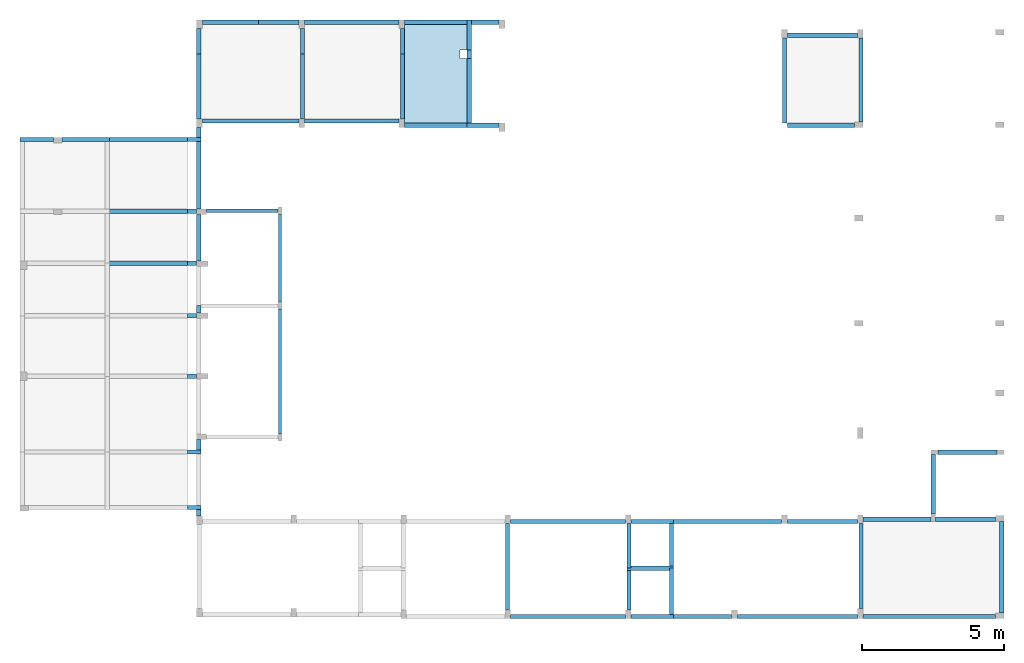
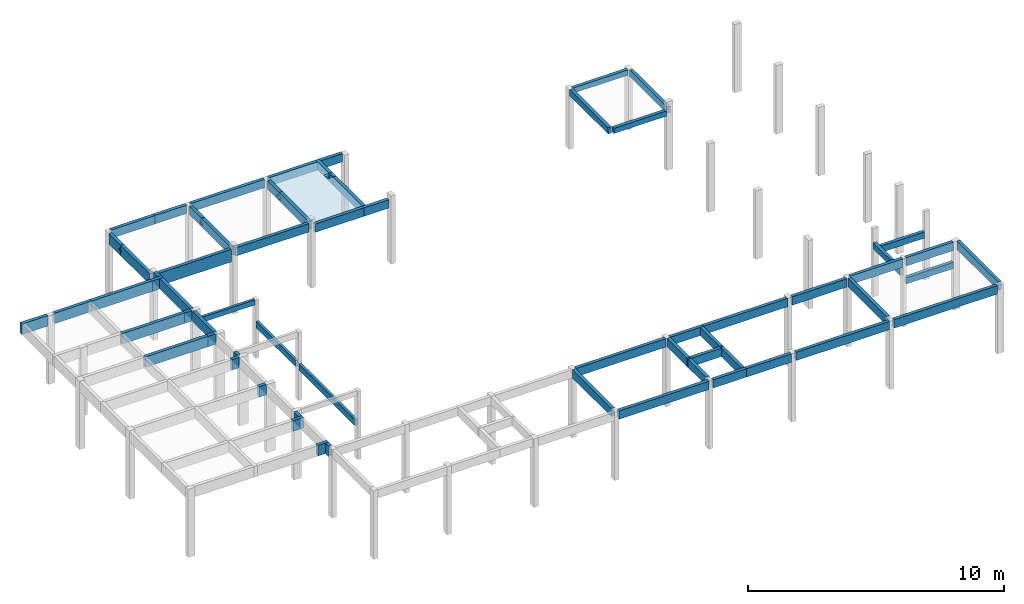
# One storey, part 2 of 6: 65 beams, 1 slab, 6 openings.
"""IFC4 building model written with IfcOpenShell, lengths in centimetres."""

import ifcopenshell
import ifcopenshell.guid

model = None  # the IFC model being written
_history = None  # IfcOwnerHistory: only IFC2X3 demands one
_inside = {}  # id of a spatial element -> (the spatial element, [elements in it])
_under = {}  # id of a project, library or spatial element -> (it, [spatial elements below it])
_declared = {}  # id of a project -> (the project, [libraries it declares])
_typed = {}  # id of a type object -> (the type object, [elements of that type])
_made_of = {}  # id of a material, layer set ... -> (it, [elements and type objects made of it])


def new_model(schema):
    """Start an empty IFC model of exactly this schema.

    Asked for "IFC4X3", IfcOpenShell would pick the latest addendum, in which some entities
    have other attributes; the version numbers below select the first issue.
    IFC2X3 requires an IfcOwnerHistory on every rooted entity: one is made here for all.
    """
    global model, _history
    if schema == "IFC4X3":
        model = ifcopenshell.file(schema_version=(4, 3, 0, 0))
    else:
        model = ifcopenshell.file(schema=schema)
    _inside.clear()
    _under.clear()
    _declared.clear()
    _typed.clear()
    _made_of.clear()
    _history = None
    if model.schema == "IFC2X3":
        org = make("IfcOrganization", Name="unknown")
        user = make(
            "IfcPersonAndOrganization",
            ThePerson=make("IfcPerson", FamilyName="unknown"),
            TheOrganization=org,
        )
        app = make(
            "IfcApplication",
            ApplicationDeveloper=org,
            Version="unknown",
            ApplicationFullName="unknown",
            ApplicationIdentifier="unknown",
        )
        _history = make(
            "IfcOwnerHistory",
            OwningUser=user,
            OwningApplication=app,
            ChangeAction="ADDED",
            CreationDate=0,
        )
    return model


def make(cls, **values):
    """One entity of the class cls with the attributes given. An attribute that is None is left unset."""
    return model.create_entity(
        cls, **{name: value for name, value in values.items() if value is not None}
    )


def rooted(cls, **values):
    """An entity with a GlobalId (a new one), such as an element, a storey or a relation."""
    return make(cls, GlobalId=ifcopenshell.guid.new(), OwnerHistory=_history, **values)


def si_unit(unit_type, name, prefix=None):
    """IfcSIUnit, for example si_unit("LENGTHUNIT", "METRE", prefix="MILLI")."""
    return make("IfcSIUnit", UnitType=unit_type, Prefix=prefix, Name=name)


def derived_unit(unit_type, elements):
    """IfcDerivedUnit: a product of units, each with its exponent."""
    return make(
        "IfcDerivedUnit",
        Elements=[
            make("IfcDerivedUnitElement", Unit=unit, Exponent=power)
            for unit, power in elements
        ],
        UnitType=unit_type,
    )


def assignment(units):
    """IfcUnitAssignment: the units of a project."""
    return None if units is None else make("IfcUnitAssignment", Units=units)


def point(xyz):
    """IfcCartesianPoint."""
    return None if xyz is None else make("IfcCartesianPoint", Coordinates=xyz)


def direction(xyz):
    """IfcDirection."""
    return None if xyz is None else make("IfcDirection", DirectionRatios=xyz)


def frame(location, z_axis=None, x_axis=None):
    """IfcAxis2Placement3D, a coordinate frame: its origin and axes. An axis left out is left unset."""
    return make(
        "IfcAxis2Placement3D",
        Location=point(location),
        Axis=direction(z_axis),
        RefDirection=direction(x_axis),
    )


def frame_2d(location, x_axis=None):
    """IfcAxis2Placement2D, a coordinate frame in the plane: its origin and x axis."""
    return make(
        "IfcAxis2Placement2D", Location=point(location), RefDirection=direction(x_axis)
    )


def origin_with_axes():
    """The frame at (0, 0, 0) with the z axis (0, 0, 1) and the x axis (1, 0, 0) written out."""
    return frame((0.0, 0.0, 0.0), z_axis=(0.0, 0.0, 1.0), x_axis=(1.0, 0.0, 0.0))


def origin_2d_with_axis():
    """The frame at (0, 0) in the plane with the x axis (1, 0) written out."""
    return frame_2d((0.0, 0.0), x_axis=(1.0, 0.0))


def place(relative_to, where):
    """IfcLocalPlacement: puts the frame where relative to a parent placement (None: the world)."""
    return make(
        "IfcLocalPlacement", PlacementRelTo=relative_to, RelativePlacement=where
    )


def context(
    kind, dimensions, precision=None, world=None, true_north=None, identifier=None
):
    """IfcGeometricRepresentationContext, for example the 3D "Model" context."""
    return make(
        "IfcGeometricRepresentationContext",
        ContextIdentifier=identifier,
        ContextType=kind,
        CoordinateSpaceDimension=dimensions,
        Precision=precision,
        WorldCoordinateSystem=world,
        TrueNorth=true_north,
    )


def project(units=None, contexts=None):
    """IfcProject with its units and contexts."""
    return rooted(
        "IfcProject",
        Name="project",
        RepresentationContexts=contexts,
        UnitsInContext=assignment(units),
    )


def spatial(cls, under=None, at=None, **own):
    """A site, building, storey or space (cls), placed at a placement, below another one or the project."""
    s = rooted(cls, ObjectPlacement=at, **own)
    if under is not None:
        _under.setdefault(under.id(), (under, []))[1].append(s)
    return s


def polyline(points):
    """IfcPolyline through the points."""
    return make("IfcPolyline", Points=[point(p) for p in points])


def profile(cls, at=None, kind="AREA", **sizes):
    """A parametric profile (cls). Its sizes go by their IFC names, for example OverallWidth=200.0."""
    return make(cls, ProfileType=kind, Position=at, **sizes)


def rectangle(**sizes):
    """IfcRectangleProfileDef."""
    return profile("IfcRectangleProfileDef", **sizes)


def outline(outer, holes=None, kind="AREA"):
    """IfcArbitraryClosedProfileDef: a profile drawn as a closed curve; with holes, ...WithVoids."""
    if holes is None:
        return make("IfcArbitraryClosedProfileDef", ProfileType=kind, OuterCurve=outer)
    return make(
        "IfcArbitraryProfileDefWithVoids",
        ProfileType=kind,
        OuterCurve=outer,
        InnerCurves=holes,
    )


def extrude(swept, where, along, depth):
    """IfcExtrudedAreaSolid: the profile swept, set in the frame where, extruded along a direction by depth."""
    return make(
        "IfcExtrudedAreaSolid",
        SweptArea=swept,
        Position=where,
        ExtrudedDirection=direction(along),
        Depth=depth,
    )


def shape(context_of_items, identifier, shape_type, items):
    """IfcShapeRepresentation: the items that make up one representation, for example the "Body"."""
    return make(
        "IfcShapeRepresentation",
        ContextOfItems=context_of_items,
        RepresentationIdentifier=identifier,
        RepresentationType=shape_type,
        Items=items,
    )


def material(Name=None, Category=None):
    """IfcMaterial."""
    return make("IfcMaterial", Name=Name, Category=Category)


def made_of(thing, what):
    """Note that an element or type object is made of a material, layer set ...; save() writes the relation."""
    if what is not None:
        _made_of.setdefault(what.id(), (what, []))[1].append(thing)
    return thing


def element(
    cls,
    number,
    at=None,
    inside=None,
    cuts=None,
    type_object=None,
    material=None,
    context=None,
    identifier="Body",
    shape_type=None,
    held_by="IfcProductDefinitionShape",
    body=None,
    shapes=None,
    **own,
):
    """One element of the class cls, such as IfcWall. Its Tag is "e" and its number.

    at: its placement. inside: the storey or other place that contains it. cuts: it is an
    opening in that element (IfcRelVoidsElement). A single representation is given by context,
    identifier, shape_type and body (its items); several are given by shapes. held_by: the class
    of the entity that holds the representations. save() writes the other relations.
    """
    e = rooted(cls, Tag="e%d" % number, ObjectPlacement=at, **own)
    if body is not None:
        shapes = [shape(context, identifier, shape_type, body)]
    if shapes is not None:
        e.Representation = make(held_by, Representations=shapes)
    if inside is not None:
        _inside.setdefault(inside.id(), (inside, []))[1].append(e)
    if cuts is not None:
        rooted(
            "IfcRelVoidsElement", RelatingBuildingElement=cuts, RelatedOpeningElement=e
        )
    if type_object is not None:
        _typed.setdefault(type_object.id(), (type_object, []))[1].append(e)
    return made_of(e, material)


def aggregate(whole, parts):
    """IfcRelAggregates: a whole, such as a stair, and the parts it consists of."""
    return rooted("IfcRelAggregates", RelatingObject=whole, RelatedObjects=parts)


def save(model, path):
    """Write the relations noted so far, then the file.

    IfcRelAggregates (storeys below a building ...), IfcRelContainedInSpatialStructure (elements
    in a storey), IfcRelDefinesByType, IfcRelAssociatesMaterial and IfcRelDeclares: one each for
    every whole, place, type object, material and project.
    """
    for whole, parts in _under.values():
        aggregate(whole, parts)
    for where, things in _inside.values():
        rooted(
            "IfcRelContainedInSpatialStructure",
            RelatedElements=things,
            RelatingStructure=where,
        )
    for kind, things in _typed.values():
        rooted("IfcRelDefinesByType", RelatedObjects=things, RelatingType=kind)
    for what, things in _made_of.values():
        rooted("IfcRelAssociatesMaterial", RelatedObjects=things, RelatingMaterial=what)
    for by, libraries in _declared.values():
        rooted("IfcRelDeclares", RelatingContext=by, RelatedDefinitions=libraries)
    model.write(path)


model = new_model("IFC4")

# Units and contexts
model_context = context("Model", 3, precision=1e-05, world=origin_with_axes(), identifier="Body")
ifc_project = project(units=[si_unit("LENGTHUNIT", "METRE", prefix="CENTI"), si_unit("VOLUMEUNIT", "CUBIC_METRE"), si_unit("AREAUNIT", "SQUARE_METRE"), si_unit("POWERUNIT", "WATT"), si_unit("LUMINOUSFLUXUNIT", "LUMEN"), si_unit("ELECTRICCURRENTUNIT", "AMPERE"), si_unit("PRESSUREUNIT", "PASCAL", prefix="KILO"), si_unit("MASSUNIT", "GRAM", prefix="KILO"), si_unit("PLANEANGLEUNIT", "RADIAN"), derived_unit("VOLUMETRICFLOWRATEUNIT", [(si_unit("LENGTHUNIT", "METRE"), 3), (si_unit("TIMEUNIT", "SECOND"), -1)])], contexts=[model_context])

# Site, building, storey
site_placement = place(None, origin_with_axes())
site = spatial("IfcSite", under=ifc_project, at=site_placement)
building_placement = place(site_placement, frame((0.0, 0.0, -295.0)))
building = spatial("IfcBuilding", under=site, at=building_placement)
placement_1 = place(building_placement, origin_with_axes())
placement_2 = place(placement_1, frame((0.0, 0.0, 101.0), z_axis=(0.0, 0.0, 1.0), x_axis=(1.0, 0.0, 0.0)))
placement_3 = place(placement_2, frame((0.0, 0.0, 204.0), z_axis=(0.0, 0.0, 1.0), x_axis=(1.0, 0.0, 0.0)))
placement_4 = place(placement_3, frame((0.0, 0.0, 292.0), z_axis=(0.0, 0.0, 1.0), x_axis=(1.0, 0.0, 0.0)))
placement_5 = place(placement_4, frame((0.0, 0.0, 302.0), z_axis=(0.0, 0.0, 1.0), x_axis=(1.0, 0.0, 0.0)))
storey_placement = place(placement_5, frame((0.0, 0.0, 326.0), z_axis=(0.0, 0.0, 1.0), x_axis=(1.0, 0.0, 0.0)))
storey = spatial("IfcBuildingStorey", under=building, at=storey_placement, Name="COB CX DAGUA", CompositionType="ELEMENT", Elevation=930.0)

# Beams
ifc_material = material(Name="Concreto")
beam_1_placement = place(storey_placement, frame((1292.65, -5078.75, -26.0), z_axis=(0.0, 0.0, 1.0), x_axis=(1.0, 0.0, 0.0)))
element("IfcBeam", 1, at=beam_1_placement, inside=storey, material=ifc_material, Name="V301", context=model_context, shape_type="SolidModel", body=[
    extrude(rectangle(XDim=15.0, YDim=40.0, at=origin_2d_with_axis()), frame((-98.75, 0.0, -20.0), z_axis=(1.0, 0.0, 0.0), x_axis=(0.0, -1.0, 0.0)), (0.0, 0.0, 1.0), 197.5),
])
beam_2_placement = place(storey_placement, frame((2189.79, -5078.75, -26.0), z_axis=(0.0, 0.0, 1.0), x_axis=(1.0, 0.0, 0.0)))
element("IfcBeam", 2, at=beam_2_placement, inside=storey, material=ifc_material, Name="V301", context=model_context, shape_type="SolidModel", body=[
    extrude(rectangle(XDim=15.0, YDim=40.0, at=origin_2d_with_axis()), frame((-48.94, 0.0, -20.0), z_axis=(1.0, 0.0, 0.0), x_axis=(0.0, -1.0, 0.0)), (0.0, 0.0, 1.0), 97.88),
])
beam_3_placement = place(storey_placement, frame((1462.9, -5078.75, -26.0), z_axis=(0.0, 0.0, 1.0), x_axis=(1.0, 0.0, 0.0)))
element("IfcBeam", 3, at=beam_3_placement, inside=storey, material=ifc_material, Name="V301", context=model_context, shape_type="SolidModel", body=[
    extrude(rectangle(XDim=15.0, YDim=40.0, at=origin_2d_with_axis()), frame((-71.5, 0.0, -20.0), z_axis=(1.0, 0.0, 0.0), x_axis=(0.0, -1.0, 0.0)), (0.0, 0.0, 1.0), 143.0),
])
beam_4_placement = place(storey_placement, frame((2019.6, -5078.75, -26.0), z_axis=(0.0, 0.0, 1.0), x_axis=(1.0, 0.0, 0.0)))
element("IfcBeam", 4, at=beam_4_placement, inside=storey, material=ifc_material, Name="V301", context=model_context, shape_type="SolidModel", body=[
    extrude(rectangle(XDim=15.0, YDim=40.0, at=origin_2d_with_axis()), frame((-113.75, 0.0, -20.0), z_axis=(1.0, 0.0, 0.0), x_axis=(0.0, -1.0, 0.0)), (0.0, 0.0, 1.0), 227.5),
])
beam_5_placement = place(storey_placement, frame((1720.125, -5078.75, -26.0), z_axis=(0.0, 0.0, 1.0), x_axis=(1.0, 0.0, 0.0)))
element("IfcBeam", 5, at=beam_5_placement, inside=storey, material=ifc_material, Name="V301", context=model_context, shape_type="SolidModel", body=[
    extrude(rectangle(XDim=15.0, YDim=40.0, at=origin_2d_with_axis()), frame((-165.725, 0.0, -20.0), z_axis=(1.0, 0.0, 0.0), x_axis=(0.0, -1.0, 0.0)), (0.0, 0.0, 1.0), 331.45),
])
beam_6_placement = place(storey_placement, frame((3377.23, -5125.05, -41.0), z_axis=(0.0, 0.0, 1.0), x_axis=(1.0, 0.0, 0.0)))
element("IfcBeam", 6, at=beam_6_placement, inside=storey, material=ifc_material, Name="V302", context=model_context, shape_type="SolidModel", body=[
    extrude(rectangle(XDim=15.0, YDim=25.0, at=origin_2d_with_axis()), frame((-123.5, 0.0, -12.5), z_axis=(1.0, 0.0, 0.0), x_axis=(0.0, -1.0, 0.0)), (0.0, 0.0, 1.0), 247.0),
])
beam_7_placement = place(storey_placement, frame((1364.15, -5427.19, -26.0), z_axis=(0.0, 0.0, 1.0), x_axis=(1.0, 0.0, 0.0)))
element("IfcBeam", 7, at=beam_7_placement, inside=storey, material=ifc_material, Name="V303", context=model_context, shape_type="SolidModel", body=[
    extrude(rectangle(XDim=15.0, YDim=60.0, at=origin_2d_with_axis()), frame((-170.25, 0.0, -30.0), z_axis=(1.0, 0.0, 0.0), x_axis=(0.0, -1.0, 0.0)), (0.0, 0.0, 1.0), 340.5),
])
beam_8_placement = place(storey_placement, frame((1720.125, -5427.19, -26.0), z_axis=(0.0, 0.0, 1.0), x_axis=(1.0, 0.0, 0.0)))
element("IfcBeam", 8, at=beam_8_placement, inside=storey, material=ifc_material, Name="V304", context=model_context, shape_type="SolidModel", body=[
    extrude(rectangle(XDim=15.0, YDim=40.0, at=origin_2d_with_axis()), frame((-165.725, 0.0, -20.0), z_axis=(1.0, 0.0, 0.0), x_axis=(0.0, -1.0, 0.0)), (0.0, 0.0, 1.0), 331.45),
])
beam_9_placement = place(storey_placement, frame((1164.9, -5491.66, 0.0), z_axis=(0.0, 0.0, 1.0), x_axis=(1.0, 0.0, 0.0)))
element("IfcBeam", 9, at=beam_9_placement, inside=storey, material=ifc_material, Name="V305", context=model_context, shape_type="SolidModel", body=[
    extrude(rectangle(XDim=15.0, YDim=50.0, at=origin_2d_with_axis()), frame((-24.0, 0.0, -25.0), z_axis=(1.0, 0.0, 0.0), x_axis=(0.0, -1.0, 0.0)), (0.0, 0.0, 1.0), 48.0),
])
beam_10_placement = place(storey_placement, frame((610.33, -5491.66, 0.0), z_axis=(0.0, 0.0, 1.0), x_axis=(1.0, 0.0, 0.0)))
element("IfcBeam", 10, at=beam_10_placement, inside=storey, material=ifc_material, Name="V305", context=model_context, shape_type="SolidModel", body=[
    extrude(rectangle(XDim=15.0, YDim=50.0, at=origin_2d_with_axis()), frame((-58.6, 0.0, -25.0), z_axis=(1.0, 0.0, 0.0), x_axis=(0.0, -1.0, 0.0)), (0.0, 0.0, 1.0), 117.2),
])
beam_11_placement = place(storey_placement, frame((999.9, -5491.66, 0.0), z_axis=(0.0, 0.0, 1.0), x_axis=(1.0, 0.0, 0.0)))
element("IfcBeam", 11, at=beam_11_placement, inside=storey, material=ifc_material, Name="V305", context=model_context, shape_type="SolidModel", body=[
    extrude(rectangle(XDim=15.0, YDim=50.0, at=origin_2d_with_axis()), frame((-141.0, 0.0, -25.0), z_axis=(1.0, 0.0, 0.0), x_axis=(0.0, -1.0, 0.0)), (0.0, 0.0, 1.0), 282.0),
])
beam_12_placement = place(storey_placement, frame((782.665, -5491.66, 0.0), z_axis=(0.0, 0.0, 1.0), x_axis=(1.0, 0.0, 0.0)))
element("IfcBeam", 12, at=beam_12_placement, inside=storey, material=ifc_material, Name="V305", context=model_context, shape_type="SolidModel", body=[
    extrude(rectangle(XDim=15.0, YDim=50.0, at=origin_2d_with_axis()), frame((-83.735, 0.0, -25.0), z_axis=(1.0, 0.0, 0.0), x_axis=(0.0, -1.0, 0.0)), (0.0, 0.0, 1.0), 167.47),
])
beam_13_placement = place(storey_placement, frame((2019.6, -5442.12, -26.0), z_axis=(0.0, 0.0, 1.0), x_axis=(1.0, 0.0, 0.0)))
element("IfcBeam", 13, at=beam_13_placement, inside=storey, material=ifc_material, Name="V306", context=model_context, shape_type="SolidModel", body=[
    extrude(rectangle(XDim=15.0, YDim=40.0, at=origin_2d_with_axis()), frame((-113.75, 0.0, -20.0), z_axis=(1.0, 0.0, 0.0), x_axis=(0.0, -1.0, 0.0)), (0.0, 0.0, 1.0), 227.5),
])
beam_14_placement = place(storey_placement, frame((2182.29, -5442.12, -26.0), z_axis=(0.0, 0.0, 1.0), x_axis=(1.0, 0.0, 0.0)))
element("IfcBeam", 14, at=beam_14_placement, inside=storey, material=ifc_material, Name="V306", context=model_context, shape_type="SolidModel", body=[
    extrude(rectangle(XDim=15.0, YDim=40.0, at=origin_2d_with_axis()), frame((-56.44, 0.0, -20.0), z_axis=(1.0, 0.0, 0.0), x_axis=(0.0, -1.0, 0.0)), (0.0, 0.0, 1.0), 112.88),
])
beam_15_placement = place(storey_placement, frame((3372.22, -5442.12, -41.0), z_axis=(0.0, 0.0, 1.0), x_axis=(1.0, 0.0, 0.0)))
element("IfcBeam", 15, at=beam_15_placement, inside=storey, material=ifc_material, Name="V307", context=model_context, shape_type="SolidModel", body=[
    extrude(rectangle(XDim=15.0, YDim=25.0, at=origin_2d_with_axis()), frame((-118.49, 0.0, -12.5), z_axis=(1.0, 0.0, 0.0), x_axis=(0.0, -1.0, 0.0)), (0.0, 0.0, 1.0), 236.98),
])
beam_16_placement = place(storey_placement, frame((1157.4, -5744.34, 0.0), z_axis=(0.0, 0.0, 1.0), x_axis=(1.0, 0.0, 0.0)))
element("IfcBeam", 16, at=beam_16_placement, inside=storey, material=ifc_material, Name="V308", context=model_context, shape_type="SolidModel", body=[
    extrude(rectangle(XDim=15.0, YDim=50.0, at=origin_2d_with_axis()), frame((-16.5, 0.0, -25.0), z_axis=(1.0, 0.0, 0.0), x_axis=(0.0, -1.0, 0.0)), (0.0, 0.0, 1.0), 33.0),
])
beam_17_placement = place(storey_placement, frame((999.9, -5744.34, 0.0), z_axis=(0.0, 0.0, 1.0), x_axis=(1.0, 0.0, 0.0)))
element("IfcBeam", 17, at=beam_17_placement, inside=storey, material=ifc_material, Name="V308", context=model_context, shape_type="SolidModel", body=[
    extrude(rectangle(XDim=15.0, YDim=50.0, at=origin_2d_with_axis()), frame((-141.0, 0.0, -25.0), z_axis=(1.0, 0.0, 0.0), x_axis=(0.0, -1.0, 0.0)), (0.0, 0.0, 1.0), 282.0),
])
beam_18_placement = place(storey_placement, frame((1334.4, -5742.84, -50.0), z_axis=(0.0, 0.0, 1.0), x_axis=(1.0, 0.0, 0.0)))
element("IfcBeam", 18, at=beam_18_placement, inside=storey, material=ifc_material, Name="V309", context=model_context, shape_type="SolidModel", body=[
    extrude(rectangle(XDim=12.0, YDim=25.0, at=origin_2d_with_axis()), frame((-125.5, 0.0, -12.5), z_axis=(1.0, 0.0, 0.0), x_axis=(0.0, -1.0, 0.0)), (0.0, 0.0, 1.0), 251.0),
])
beam_19_placement = place(storey_placement, frame((999.9, -5927.35, 0.0), z_axis=(0.0, 0.0, 1.0), x_axis=(1.0, 0.0, 0.0)))
element("IfcBeam", 19, at=beam_19_placement, inside=storey, material=ifc_material, Name="V310", context=model_context, shape_type="SolidModel", body=[
    extrude(rectangle(XDim=15.0, YDim=50.0, at=origin_2d_with_axis()), frame((-141.0, 0.0, -25.0), z_axis=(1.0, 0.0, 0.0), x_axis=(0.0, -1.0, 0.0)), (0.0, 0.0, 1.0), 282.0),
])
for number, where, z_axis, x_axis, name in (
    (20, (1157.4, -5927.35, 0.0), (0.0, 0.0, 1.0), (1.0, 0.0, 0.0), "V310"),
    (21, (1157.4, -6112.7, 0.0), (0.0, 0.0, 1.0), (1.0, 0.0, 0.0), "V311"),
    (22, (1157.4, -6325.62, 0.0), (0.0, 0.0, 1.0), (1.0, 0.0, 0.0), "V313"),
):
    element("IfcBeam", number, at=place(storey_placement, frame(where, z_axis=z_axis, x_axis=x_axis)), inside=storey, material=ifc_material, Name=name, context=model_context, shape_type="SolidModel", body=[
        extrude(rectangle(XDim=15.0, YDim=50.0, at=origin_2d_with_axis()), frame((-16.5, 0.0, -25.0), z_axis=(1.0, 0.0, 0.0), x_axis=(0.0, -1.0, 0.0)), (0.0, 0.0, 1.0), 33.0),
    ])
for number, where, z_axis, x_axis, name in (
    (23, (1164.9, -6592.54, 0.0), (0.0, 0.0, 1.0), (1.0, 0.0, 0.0), "V315"),
    (24, (1164.9, -6787.54, 0.0), (0.0, 0.0, 1.0), (1.0, 0.0, 0.0), "V316"),
):
    element("IfcBeam", number, at=place(storey_placement, frame(where, z_axis=z_axis, x_axis=x_axis)), inside=storey, material=ifc_material, Name=name, context=model_context, shape_type="SolidModel", body=[
        extrude(rectangle(XDim=15.0, YDim=50.0, at=origin_2d_with_axis()), frame((-24.0, 0.0, -25.0), z_axis=(1.0, 0.0, 0.0), x_axis=(0.0, -1.0, 0.0)), (0.0, 0.0, 1.0), 48.0),
    ])
beam_20_placement = place(storey_placement, frame((3377.23, -6836.7, 0.0), z_axis=(0.0, 0.0, 1.0), x_axis=(1.0, 0.0, 0.0)))
element("IfcBeam", 25, at=beam_20_placement, inside=storey, material=ifc_material, Name="V317", context=model_context, shape_type="SolidModel", body=[
    extrude(rectangle(XDim=15.0, YDim=40.0, at=origin_2d_with_axis()), frame((-123.5, 0.0, -20.0), z_axis=(1.0, 0.0, 0.0), x_axis=(0.0, -1.0, 0.0)), (0.0, 0.0, 1.0), 247.0),
])
beam_21_placement = place(storey_placement, frame((3039.915, -6836.7, 0.0), z_axis=(0.0, 0.0, 1.0), x_axis=(1.0, 0.0, 0.0)))
element("IfcBeam", 26, at=beam_21_placement, inside=storey, material=ifc_material, Name="V317", context=model_context, shape_type="SolidModel", body=[
    extrude(rectangle(XDim=15.0, YDim=40.0, at=origin_2d_with_axis()), frame((-193.815, 0.0, -20.0), z_axis=(1.0, 0.0, 0.0), x_axis=(0.0, -1.0, 0.0)), (0.0, 0.0, 1.0), 387.63),
])
beam_22_placement = place(storey_placement, frame((2778.6, -6836.7, 0.0), z_axis=(0.0, 0.0, 1.0), x_axis=(1.0, 0.0, 0.0)))
element("IfcBeam", 27, at=beam_22_placement, inside=storey, material=ifc_material, Name="V317", context=model_context, shape_type="SolidModel", body=[
    extrude(rectangle(XDim=15.0, YDim=40.0, at=origin_2d_with_axis()), frame((-75.0, 0.0, -20.0), z_axis=(1.0, 0.0, 0.0), x_axis=(0.0, -1.0, 0.0)), (0.0, 0.0, 1.0), 150.0),
])
beam_23_placement = place(storey_placement, frame((2481.165, -6836.7, 0.0), z_axis=(0.0, 0.0, 1.0), x_axis=(1.0, 0.0, 0.0)))
element("IfcBeam", 28, at=beam_23_placement, inside=storey, material=ifc_material, Name="V317", context=model_context, shape_type="SolidModel", body=[
    extrude(rectangle(XDim=15.0, YDim=40.0, at=origin_2d_with_axis()), frame((-202.435, 0.0, -20.0), z_axis=(1.0, 0.0, 0.0), x_axis=(0.0, -1.0, 0.0)), (0.0, 0.0, 1.0), 404.87),
])
beam_24_placement = place(storey_placement, frame((3880.74, -6828.79, 0.0), z_axis=(0.0, 0.0, 1.0), x_axis=(1.0, 0.0, 0.0)))
element("IfcBeam", 29, at=beam_24_placement, inside=storey, material=ifc_material, Name="V318", context=model_context, shape_type="SolidModel", body=[
    extrude(rectangle(XDim=15.0, YDim=40.0, at=origin_2d_with_axis()), frame((-106.01, 0.0, -20.0), z_axis=(1.0, 0.0, 0.0), x_axis=(0.0, -1.0, 0.0)), (0.0, 0.0, 1.0), 212.02),
])
beam_25_placement = place(storey_placement, frame((3640.23, -6828.79, 0.0), z_axis=(0.0, 0.0, 1.0), x_axis=(1.0, 0.0, 0.0)))
element("IfcBeam", 30, at=beam_25_placement, inside=storey, material=ifc_material, Name="V318", context=model_context, shape_type="SolidModel", body=[
    extrude(rectangle(XDim=15.0, YDim=40.0, at=origin_2d_with_axis()), frame((-119.5, 0.0, -20.0), z_axis=(1.0, 0.0, 0.0), x_axis=(0.0, -1.0, 0.0)), (0.0, 0.0, 1.0), 239.0),
])
beam_26_placement = place(storey_placement, frame((2771.1, -7001.64, 0.0), z_axis=(0.0, 0.0, 1.0), x_axis=(1.0, 0.0, 0.0)))
element("IfcBeam", 31, at=beam_26_placement, inside=storey, material=ifc_material, Name="V320", context=model_context, shape_type="SolidModel", body=[
    extrude(rectangle(XDim=15.0, YDim=40.0, at=origin_2d_with_axis()), frame((-82.5, 0.0, -20.0), z_axis=(1.0, 0.0, 0.0), x_axis=(0.0, -1.0, 0.0)), (0.0, 0.0, 1.0), 165.0),
])
beam_27_placement = place(storey_placement, frame((2481.165, -7171.81, 0.0), z_axis=(0.0, 0.0, 1.0), x_axis=(1.0, 0.0, 0.0)))
element("IfcBeam", 32, at=beam_27_placement, inside=storey, material=ifc_material, Name="V322", context=model_context, shape_type="SolidModel", body=[
    extrude(rectangle(XDim=15.0, YDim=40.0, at=origin_2d_with_axis()), frame((-202.435, 0.0, -20.0), z_axis=(1.0, 0.0, 0.0), x_axis=(0.0, -1.0, 0.0)), (0.0, 0.0, 1.0), 404.87),
])
beam_28_placement = place(storey_placement, frame((2951.82, -7171.81, 0.0), z_axis=(0.0, 0.0, 1.0), x_axis=(1.0, 0.0, 0.0)))
element("IfcBeam", 33, at=beam_28_placement, inside=storey, material=ifc_material, Name="V322", context=model_context, shape_type="SolidModel", body=[
    extrude(rectangle(XDim=15.0, YDim=40.0, at=origin_2d_with_axis()), frame((-105.72, 0.0, -20.0), z_axis=(1.0, 0.0, 0.0), x_axis=(0.0, -1.0, 0.0)), (0.0, 0.0, 1.0), 211.44),
])
beam_29_placement = place(storey_placement, frame((3753.745, -7171.81, 0.0), z_axis=(0.0, 0.0, 1.0), x_axis=(1.0, 0.0, 0.0)))
element("IfcBeam", 34, at=beam_29_placement, inside=storey, material=ifc_material, Name="V322", context=model_context, shape_type="SolidModel", body=[
    extrude(rectangle(XDim=15.0, YDim=40.0, at=origin_2d_with_axis()), frame((-233.015, 0.0, -20.0), z_axis=(1.0, 0.0, 0.0), x_axis=(0.0, -1.0, 0.0)), (0.0, 0.0, 1.0), 466.03),
])
beam_30_placement = place(storey_placement, frame((3289.135, -7171.81, 0.0), z_axis=(0.0, 0.0, 1.0), x_axis=(1.0, 0.0, 0.0)))
element("IfcBeam", 35, at=beam_30_placement, inside=storey, material=ifc_material, Name="V322", context=model_context, shape_type="SolidModel", body=[
    extrude(rectangle(XDim=15.0, YDim=40.0, at=origin_2d_with_axis()), frame((-211.595, 0.0, -20.0), z_axis=(1.0, 0.0, 0.0), x_axis=(0.0, -1.0, 0.0)), (0.0, 0.0, 1.0), 423.19),
])
beam_31_placement = place(storey_placement, frame((2778.6, -7171.81, 0.0), z_axis=(0.0, 0.0, 1.0), x_axis=(1.0, 0.0, 0.0)))
element("IfcBeam", 36, at=beam_31_placement, inside=storey, material=ifc_material, Name="V322", context=model_context, shape_type="SolidModel", body=[
    extrude(rectangle(XDim=15.0, YDim=40.0, at=origin_2d_with_axis()), frame((-75.0, 0.0, -20.0), z_axis=(1.0, 0.0, 0.0), x_axis=(0.0, -1.0, 0.0)), (0.0, 0.0, 1.0), 150.0),
])
beam_32_placement = place(storey_placement, frame((1181.4, -6806.695, 0.0), z_axis=(0.0, 0.0, 1.0), x_axis=(1.0, 0.0, 0.0)))
element("IfcBeam", 37, at=beam_32_placement, inside=storey, material=ifc_material, Name="V326", context=model_context, shape_type="SolidModel", body=[
    extrude(rectangle(XDim=15.0, YDim=50.0, at=origin_2d_with_axis()), frame((0.0, -11.655, -25.0), z_axis=(0.0, 1.0, 0.0), x_axis=(1.0, 0.0, 0.0)), (0.0, 0.0, 1.0), 23.31),
])
beam_33_placement = place(storey_placement, frame((1181.4, -6566.795, 0.0), z_axis=(0.0, 0.0, 1.0), x_axis=(1.0, 0.0, 0.0)))
element("IfcBeam", 38, at=beam_33_placement, inside=storey, material=ifc_material, Name="V326", context=model_context, shape_type="SolidModel", body=[
    extrude(rectangle(XDim=15.0, YDim=50.0, at=origin_2d_with_axis()), frame((0.0, -18.245, -25.0), z_axis=(0.0, 1.0, 0.0), x_axis=(1.0, 0.0, 0.0)), (0.0, 0.0, 1.0), 36.49),
])
beam_34_placement = place(storey_placement, frame((1181.4, -5838.345, 0.0), z_axis=(0.0, 0.0, 1.0), x_axis=(1.0, 0.0, 0.0)))
element("IfcBeam", 39, at=beam_34_placement, inside=storey, material=ifc_material, Name="V327", context=model_context, shape_type="SolidModel", body=[
    extrude(rectangle(XDim=15.0, YDim=50.0, at=origin_2d_with_axis()), frame((0.0, -81.505, -25.0), z_axis=(0.0, 1.0, 0.0), x_axis=(1.0, 0.0, 0.0)), (0.0, 0.0, 1.0), 163.01),
])
beam_35_placement = place(storey_placement, frame((1181.4, -6089.7, 0.0), z_axis=(0.0, 0.0, 1.0), x_axis=(1.0, 0.0, 0.0)))
element("IfcBeam", 40, at=beam_35_placement, inside=storey, material=ifc_material, Name="V327", context=model_context, shape_type="SolidModel", body=[
    extrude(rectangle(XDim=15.0, YDim=50.0, at=origin_2d_with_axis()), frame((0.0, -13.0, -25.0), z_axis=(0.0, 1.0, 0.0), x_axis=(1.0, 0.0, 0.0)), (0.0, 0.0, 1.0), 26.0),
])
beam_36_placement = place(storey_placement, frame((1181.4, -5466.925, 0.0), z_axis=(0.0, 0.0, 1.0), x_axis=(1.0, 0.0, 0.0)))
element("IfcBeam", 41, at=beam_36_placement, inside=storey, material=ifc_material, Name="V327", context=model_context, shape_type="SolidModel", body=[
    extrude(rectangle(XDim=15.0, YDim=50.0, at=origin_2d_with_axis()), frame((0.0, -17.235, -25.0), z_axis=(0.0, 1.0, 0.0), x_axis=(1.0, 0.0, 0.0)), (0.0, 0.0, 1.0), 34.47),
])
beam_37_placement = place(storey_placement, frame((1181.4, -5614.25, 0.0), z_axis=(0.0, 0.0, 1.0), x_axis=(1.0, 0.0, 0.0)))
element("IfcBeam", 42, at=beam_37_placement, inside=storey, material=ifc_material, Name="V327", context=model_context, shape_type="SolidModel", body=[
    extrude(rectangle(XDim=15.0, YDim=50.0, at=origin_2d_with_axis()), frame((0.0, -122.59, -25.0), z_axis=(0.0, 1.0, 0.0), x_axis=(1.0, 0.0, 0.0)), (0.0, 0.0, 1.0), 245.18),
])

# Beam, opening
beam_38_placement = place(storey_placement, frame((1181.4, -5146.11, -26.0), z_axis=(0.0, 0.0, 1.0), x_axis=(1.0, 0.0, 0.0)))
beam_38 = element("IfcBeam", 43, at=beam_38_placement, inside=storey, material=ifc_material, Name="V328", context=model_context, shape_type="SolidModel", body=[
    extrude(rectangle(XDim=15.0, YDim=50.0, at=origin_2d_with_axis()), frame((0.0, -45.0, -25.0), z_axis=(0.0, 1.0, 0.0), x_axis=(1.0, 0.0, 0.0)), (0.0, 0.0, 1.0), 90.0),
])
opening_1_placement = place(storey_placement, frame((1181.4, -5191.11, -46.0), z_axis=(0.0, 0.0, 1.0), x_axis=(1.0, 0.0, 0.0)))
element("IfcOpeningElement", 44, at=opening_1_placement, cuts=beam_38, material=ifc_material, Name="V328 - Abertura 1", context=model_context, shape_type="SweptSolid", body=[
    extrude(rectangle(XDim=20.0, YDim=10.0, at=origin_2d_with_axis()), frame((7.6, 0.0, -5.0), z_axis=(-1.0, 0.0, 0.0), x_axis=(0.0, -1.0, 0.0)), (0.0, 0.0, 1.0), 15.2),
])

beam_39_placement = place(storey_placement, frame((1181.4, -5305.4, -26.0), z_axis=(0.0, 0.0, 1.0), x_axis=(1.0, 0.0, 0.0)))
beam_39 = element("IfcBeam", 45, at=beam_39_placement, inside=storey, material=ifc_material, Name="V328", context=model_context, shape_type="SolidModel", body=[
    extrude(rectangle(XDim=15.0, YDim=50.0, at=origin_2d_with_axis()), frame((0.0, -114.29, -25.0), z_axis=(0.0, 1.0, 0.0), x_axis=(1.0, 0.0, 0.0)), (0.0, 0.0, 1.0), 228.58),
])
opening_2_placement = place(storey_placement, frame((1181.4, -5191.11, -46.0), z_axis=(0.0, 0.0, 1.0), x_axis=(1.0, 0.0, 0.0)))
element("IfcOpeningElement", 46, at=opening_2_placement, cuts=beam_39, material=ifc_material, Name="V328 - Abertura 1", context=model_context, shape_type="SweptSolid", body=[
    extrude(rectangle(XDim=20.0, YDim=10.0, at=origin_2d_with_axis()), frame((7.6, 0.0, -5.0), z_axis=(-1.0, 0.0, 0.0), x_axis=(0.0, -1.0, 0.0)), (0.0, 0.0, 1.0), 15.2),
])

# Beams
beam_40_placement = place(storey_placement, frame((1467.4, -6308.875, -150.0), z_axis=(0.0, 0.0, 1.0), x_axis=(1.0, 0.0, 0.0)))
element("IfcBeam", 47, at=beam_40_placement, inside=storey, material=ifc_material, Name="V329", context=model_context, shape_type="SolidModel", body=[
    extrude(rectangle(XDim=12.0, YDim=30.0, at=origin_2d_with_axis()), frame((0.0, -219.675, -15.0), z_axis=(0.0, 1.0, 0.0), x_axis=(1.0, 0.0, 0.0)), (0.0, 0.0, 1.0), 439.35),
])
beam_41_placement = place(storey_placement, frame((1467.4, -5909.77, -150.0), z_axis=(0.0, 0.0, 1.0), x_axis=(1.0, 0.0, 0.0)))
element("IfcBeam", 48, at=beam_41_placement, inside=storey, material=ifc_material, Name="V329", context=model_context, shape_type="SolidModel", body=[
    extrude(rectangle(XDim=12.0, YDim=30.0, at=origin_2d_with_axis()), frame((0.0, -154.43, -15.0), z_axis=(0.0, 1.0, 0.0), x_axis=(1.0, 0.0, 0.0)), (0.0, 0.0, 1.0), 308.86),
])

# Beam, opening
beam_42_placement = place(storey_placement, frame((1546.9, -5305.4, -26.0), z_axis=(0.0, 0.0, 1.0), x_axis=(1.0, 0.0, 0.0)))
beam_42 = element("IfcBeam", 49, at=beam_42_placement, inside=storey, material=ifc_material, Name="V330", context=model_context, shape_type="SolidModel", body=[
    extrude(rectangle(XDim=15.0, YDim=40.0, at=origin_2d_with_axis()), frame((0.0, -114.29, -20.0), z_axis=(0.0, 1.0, 0.0), x_axis=(1.0, 0.0, 0.0)), (0.0, 0.0, 1.0), 228.58),
])
opening_3_placement = place(storey_placement, frame((1546.9, -5191.11, -46.0), z_axis=(0.0, 0.0, 1.0), x_axis=(1.0, 0.0, 0.0)))
element("IfcOpeningElement", 50, at=opening_3_placement, cuts=beam_42, material=ifc_material, Name="V330 - Abertura 1", context=model_context, shape_type="SweptSolid", body=[
    extrude(rectangle(XDim=20.0, YDim=10.0, at=origin_2d_with_axis()), frame((7.6, 0.0, -5.0), z_axis=(-1.0, 0.0, 0.0), x_axis=(0.0, -1.0, 0.0)), (0.0, 0.0, 1.0), 15.2),
])

beam_43_placement = place(storey_placement, frame((1546.9, -5146.11, -26.0), z_axis=(0.0, 0.0, 1.0), x_axis=(1.0, 0.0, 0.0)))
beam_43 = element("IfcBeam", 51, at=beam_43_placement, inside=storey, material=ifc_material, Name="V330", context=model_context, shape_type="SolidModel", body=[
    extrude(rectangle(XDim=15.0, YDim=40.0, at=origin_2d_with_axis()), frame((0.0, -45.0, -20.0), z_axis=(0.0, 1.0, 0.0), x_axis=(1.0, 0.0, 0.0)), (0.0, 0.0, 1.0), 90.0),
])
opening_4_placement = place(storey_placement, frame((1546.9, -5191.11, -46.0), z_axis=(0.0, 0.0, 1.0), x_axis=(1.0, 0.0, 0.0)))
element("IfcOpeningElement", 52, at=opening_4_placement, cuts=beam_43, material=ifc_material, Name="V330 - Abertura 1", context=model_context, shape_type="SweptSolid", body=[
    extrude(rectangle(XDim=20.0, YDim=10.0, at=origin_2d_with_axis()), frame((7.6, 0.0, -5.0), z_axis=(-1.0, 0.0, 0.0), x_axis=(0.0, -1.0, 0.0)), (0.0, 0.0, 1.0), 15.2),
])

beam_44_placement = place(storey_placement, frame((1898.35, -5146.11, -26.0), z_axis=(0.0, 0.0, 1.0), x_axis=(1.0, 0.0, 0.0)))
beam_44 = element("IfcBeam", 53, at=beam_44_placement, inside=storey, material=ifc_material, Name="V333", context=model_context, shape_type="SolidModel", body=[
    extrude(rectangle(XDim=15.0, YDim=40.0, at=origin_2d_with_axis()), frame((0.0, -45.0, -20.0), z_axis=(0.0, 1.0, 0.0), x_axis=(1.0, 0.0, 0.0)), (0.0, 0.0, 1.0), 90.0),
])
opening_5_placement = place(storey_placement, frame((1898.35, -5191.11, -43.5), z_axis=(0.0, 0.0, 1.0), x_axis=(1.0, 0.0, 0.0)))
element("IfcOpeningElement", 54, at=opening_5_placement, cuts=beam_44, material=ifc_material, Name="V333 - Abertura 1", context=model_context, shape_type="SweptSolid", body=[
    extrude(rectangle(XDim=30.0, YDim=12.5, at=origin_2d_with_axis()), frame((7.6, 0.0, -6.25), z_axis=(-1.0, 0.0, 0.0), x_axis=(0.0, -1.0, 0.0)), (0.0, 0.0, 1.0), 15.2),
])

beam_45_placement = place(storey_placement, frame((1898.35, -5305.4, -26.0), z_axis=(0.0, 0.0, 1.0), x_axis=(1.0, 0.0, 0.0)))
beam_45 = element("IfcBeam", 55, at=beam_45_placement, inside=storey, material=ifc_material, Name="V333", context=model_context, shape_type="SolidModel", body=[
    extrude(rectangle(XDim=15.0, YDim=40.0, at=origin_2d_with_axis()), frame((0.0, -114.29, -20.0), z_axis=(0.0, 1.0, 0.0), x_axis=(1.0, 0.0, 0.0)), (0.0, 0.0, 1.0), 228.58),
])
opening_6_placement = place(storey_placement, frame((1898.35, -5191.11, -43.5), z_axis=(0.0, 0.0, 1.0), x_axis=(1.0, 0.0, 0.0)))
element("IfcOpeningElement", 56, at=opening_6_placement, cuts=beam_45, material=ifc_material, Name="V333 - Abertura 1", context=model_context, shape_type="SweptSolid", body=[
    extrude(rectangle(XDim=30.0, YDim=12.5, at=origin_2d_with_axis()), frame((7.6, 0.0, -6.25), z_axis=(-1.0, 0.0, 0.0), x_axis=(0.0, -1.0, 0.0)), (0.0, 0.0, 1.0), 15.2),
])

# Beams
beam_46_placement = place(storey_placement, frame((2133.35, -5123.68, -26.0), z_axis=(0.0, 0.0, 1.0), x_axis=(1.0, 0.0, 0.0)))
element("IfcBeam", 57, at=beam_46_placement, inside=storey, material=ifc_material, Name="V334", context=model_context, shape_type="SolidModel", body=[
    extrude(rectangle(XDim=15.0, YDim=40.0, at=origin_2d_with_axis()), frame((0.0, -52.43, -20.0), z_axis=(0.0, 1.0, 0.0), x_axis=(1.0, 0.0, 0.0)), (0.0, 0.0, 1.0), 104.86),
])
beam_47_placement = place(storey_placement, frame((2133.35, -5320.365, -26.0), z_axis=(0.0, 0.0, 1.0), x_axis=(1.0, 0.0, 0.0)))
element("IfcBeam", 58, at=beam_47_placement, inside=storey, material=ifc_material, Name="V334", context=model_context, shape_type="SolidModel", body=[
    extrude(rectangle(XDim=15.0, YDim=40.0, at=origin_2d_with_axis()), frame((0.0, -114.255, -20.0), z_axis=(0.0, 1.0, 0.0), x_axis=(1.0, 0.0, 0.0)), (0.0, 0.0, 1.0), 228.51),
])
beam_48_placement = place(storey_placement, frame((2133.35, -5191.11, -26.0), z_axis=(0.0, 0.0, 1.0), x_axis=(1.0, 0.0, 0.0)))
element("IfcBeam", 59, at=beam_48_placement, inside=storey, material=ifc_material, Name="V334", context=model_context, shape_type="SolidModel", body=[
    extrude(rectangle(XDim=15.0, YDim=40.0, at=origin_2d_with_axis()), frame((0.0, -15.0, -20.0), z_axis=(0.0, 1.0, 0.0), x_axis=(1.0, 0.0, 0.0)), (0.0, 0.0, 1.0), 30.0),
])
beam_49_placement = place(storey_placement, frame((2268.73, -6996.755, 0.0), z_axis=(0.0, 0.0, 1.0), x_axis=(1.0, 0.0, 0.0)))
element("IfcBeam", 60, at=beam_49_placement, inside=storey, material=ifc_material, Name="V335", context=model_context, shape_type="SolidModel", body=[
    extrude(rectangle(XDim=15.0, YDim=40.0, at=origin_2d_with_axis()), frame((0.0, -152.555, -20.0), z_axis=(0.0, 1.0, 0.0), x_axis=(1.0, 0.0, 0.0)), (0.0, 0.0, 1.0), 305.11),
])
beam_50_placement = place(storey_placement, frame((2696.1, -6922.92, 0.0), z_axis=(0.0, 0.0, 1.0), x_axis=(1.0, 0.0, 0.0)))
element("IfcBeam", 61, at=beam_50_placement, inside=storey, material=ifc_material, Name="V336", context=model_context, shape_type="SolidModel", body=[
    extrude(rectangle(XDim=15.0, YDim=40.0, at=origin_2d_with_axis()), frame((0.0, -78.72, -20.0), z_axis=(0.0, 1.0, 0.0), x_axis=(1.0, 0.0, 0.0)), (0.0, 0.0, 1.0), 157.44),
])
beam_51_placement = place(storey_placement, frame((2696.1, -7079.225, 0.0), z_axis=(0.0, 0.0, 1.0), x_axis=(1.0, 0.0, 0.0)))
element("IfcBeam", 62, at=beam_51_placement, inside=storey, material=ifc_material, Name="V336", context=model_context, shape_type="SolidModel", body=[
    extrude(rectangle(XDim=15.0, YDim=40.0, at=origin_2d_with_axis()), frame((0.0, -70.085, -20.0), z_axis=(0.0, 1.0, 0.0), x_axis=(1.0, 0.0, 0.0)), (0.0, 0.0, 1.0), 140.17),
])
beam_52_placement = place(storey_placement, frame((2846.1, -6919.17, 0.0), z_axis=(0.0, 0.0, 1.0), x_axis=(1.0, 0.0, 0.0)))
element("IfcBeam", 63, at=beam_52_placement, inside=storey, material=ifc_material, Name="V337", context=model_context, shape_type="SolidModel", body=[
    extrude(rectangle(XDim=15.0, YDim=40.0, at=origin_2d_with_axis()), frame((0.0, -74.97, -20.0), z_axis=(0.0, 1.0, 0.0), x_axis=(1.0, 0.0, 0.0)), (0.0, 0.0, 1.0), 149.94),
])
beam_53_placement = place(storey_placement, frame((2846.1, -7082.975, 0.0), z_axis=(0.0, 0.0, 1.0), x_axis=(1.0, 0.0, 0.0)))
element("IfcBeam", 64, at=beam_53_placement, inside=storey, material=ifc_material, Name="V337", context=model_context, shape_type="SolidModel", body=[
    extrude(rectangle(XDim=15.0, YDim=40.0, at=origin_2d_with_axis()), frame((0.0, -81.335, -20.0), z_axis=(0.0, 1.0, 0.0), x_axis=(1.0, 0.0, 0.0)), (0.0, 0.0, 1.0), 162.67),
])
beam_54_placement = place(storey_placement, frame((3243.73, -5284.585, -41.0), z_axis=(0.0, 0.0, 1.0), x_axis=(1.0, 0.0, 0.0)))
element("IfcBeam", 65, at=beam_54_placement, inside=storey, material=ifc_material, Name="V338", context=model_context, shape_type="SolidModel", body=[
    extrude(rectangle(XDim=15.0, YDim=30.0, at=origin_2d_with_axis()), frame((0.0, -150.035, -15.0), z_axis=(0.0, 1.0, 0.0), x_axis=(1.0, 0.0, 0.0)), (0.0, 0.0, 1.0), 300.07),
])
beam_55_placement = place(storey_placement, frame((3513.23, -6994.255, 0.0), z_axis=(0.0, 0.0, 1.0), x_axis=(1.0, 0.0, 0.0)))
element("IfcBeam", 66, at=beam_55_placement, inside=storey, material=ifc_material, Name="V339", context=model_context, shape_type="SolidModel", body=[
    extrude(rectangle(XDim=15.0, YDim=40.0, at=origin_2d_with_axis()), frame((0.0, -150.055, -20.0), z_axis=(0.0, 1.0, 0.0), x_axis=(1.0, 0.0, 0.0)), (0.0, 0.0, 1.0), 300.11),
])
beam_56_placement = place(storey_placement, frame((3513.23, -5282.12, -41.0), z_axis=(0.0, 0.0, 1.0), x_axis=(1.0, 0.0, 0.0)))
element("IfcBeam", 67, at=beam_56_placement, inside=storey, material=ifc_material, Name="V340", context=model_context, shape_type="SolidModel", body=[
    extrude(rectangle(XDim=15.0, YDim=30.0, at=origin_2d_with_axis()), frame((0.0, -147.57, -15.0), z_axis=(0.0, 1.0, 0.0), x_axis=(1.0, 0.0, 0.0)), (0.0, 0.0, 1.0), 295.14),
])
beam_57_placement = place(storey_placement, frame((4009.26, -6997.8, 0.0), z_axis=(0.0, 0.0, 1.0), x_axis=(1.0, 0.0, 0.0)))
element("IfcBeam", 68, at=beam_57_placement, inside=storey, material=ifc_material, Name="V341", context=model_context, shape_type="SolidModel", body=[
    extrude(rectangle(XDim=15.0, YDim=40.0, at=origin_2d_with_axis()), frame((0.0, -161.51, -20.0), z_axis=(0.0, 1.0, 0.0), x_axis=(1.0, 0.0, 0.0)), (0.0, 0.0, 1.0), 323.02),
])
beam_58_placement = place(storey_placement, frame((3888.23, -6592.81, -96.0), z_axis=(0.0, 0.0, 1.0), x_axis=(1.0, 0.0, 0.0)))
element("IfcBeam", 69, at=beam_58_placement, inside=storey, material=ifc_material, Name="V342", context=model_context, shape_type="SolidModel", body=[
    extrude(rectangle(XDim=15.0, YDim=30.0, at=origin_2d_with_axis()), frame((-103.5, 0.0, -15.0), z_axis=(1.0, 0.0, 0.0), x_axis=(0.0, -1.0, 0.0)), (0.0, 0.0, 1.0), 207.0),
])
beam_59_placement = place(storey_placement, frame((3880.74, -6828.79, -96.0), z_axis=(0.0, 0.0, 1.0), x_axis=(1.0, 0.0, 0.0)))
element("IfcBeam", 70, at=beam_59_placement, inside=storey, material=ifc_material, Name="V343", context=model_context, shape_type="SolidModel", body=[
    extrude(rectangle(XDim=15.0, YDim=30.0, at=origin_2d_with_axis()), frame((-106.01, 0.0, -15.0), z_axis=(1.0, 0.0, 0.0), x_axis=(0.0, -1.0, 0.0)), (0.0, 0.0, 1.0), 212.02),
])
beam_60_placement = place(storey_placement, frame((3767.23, -6705.8, -66.0), z_axis=(0.0, 0.0, 1.0), x_axis=(1.0, 0.0, 0.0)))
element("IfcBeam", 71, at=beam_60_placement, inside=storey, material=ifc_material, Name="V344", context=model_context, shape_type="SolidModel", body=[
    extrude(rectangle(XDim=15.0, YDim=30.0, at=origin_2d_with_axis()), frame((0.0, -105.49, -15.0), z_axis=(0.0, 1.0, 0.0), x_axis=(1.0, 0.0, 0.0)), (0.0, 0.0, 1.0), 210.98),
])

# Slab
slab_placement = place(storey_placement, frame((2015.8495, -5260.435, -26.0), z_axis=(0.0, 0.0, 1.0), x_axis=(1.0, 0.0, 0.0)))
element("IfcSlab", 72, at=slab_placement, inside=storey, material=ifc_material, Name="L303", PredefinedType="FLOOR", context=model_context, shape_type="SolidModel", body=[
    extrude(outline(polyline([(109.999, 54.325), (84.999, 54.325), (84.999, 84.325), (109.999, 84.325), (109.999, 174.185), (-110.0, 174.185), (-110.0, -174.184), (109.999, -174.185), (109.999, 54.325), (109.999, 54.325)])), frame((0.0005, 0.0, -10.0), z_axis=(0.0, 0.0, 1.0), x_axis=(1.0, 0.0, 0.0)), (0.0, 0.0, 1.0), 10.0),
])

save(model, "model.ifc")
